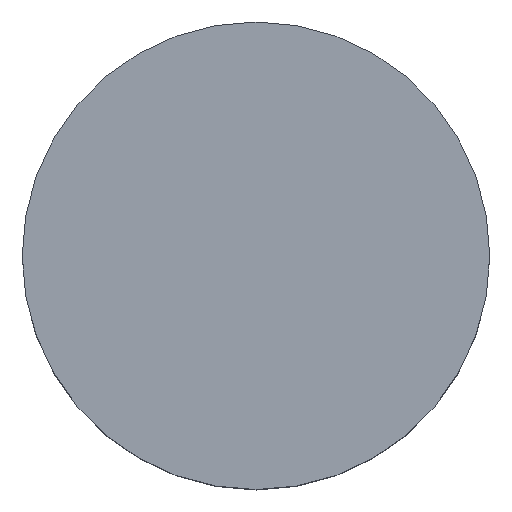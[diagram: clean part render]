
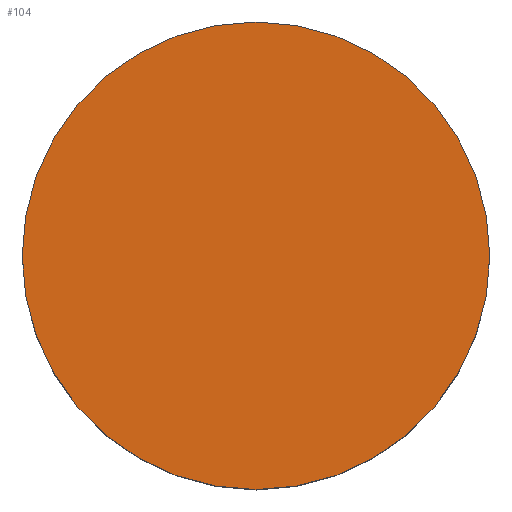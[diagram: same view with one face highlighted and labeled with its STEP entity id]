
A CAD part, top view. The second image highlights one B-rep face of the part: STEP entity #104.
In plain terms, the highlighted planar face has unit normal (0, 0, 1).
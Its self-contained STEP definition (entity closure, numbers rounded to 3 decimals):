
#21 = EDGE_CURVE('',#22,#22,#24,.T.);
#22 = VERTEX_POINT('',#23);
#23 = CARTESIAN_POINT('',(-73.,-42.,40.));
#24 = SURFACE_CURVE('',#25,(#30,#42),.PCURVE_S1.);
#25 = CIRCLE('',#26,2.);
#26 = AXIS2_PLACEMENT_3D('',#27,#28,#29);
#27 = CARTESIAN_POINT('',(-75.,-42.,40.));
#28 = DIRECTION('',(0.,0.,1.));
#29 = DIRECTION('',(1.,0.,0.));
#30 = PCURVE('',#31,#36);
#31 = CYLINDRICAL_SURFACE('',#32,2.);
#32 = AXIS2_PLACEMENT_3D('',#33,#34,#35);
#33 = CARTESIAN_POINT('',(-75.,-42.,38.));
#34 = DIRECTION('',(0.,0.,1.));
#35 = DIRECTION('',(1.,0.,0.));
#36 = DEFINITIONAL_REPRESENTATION('',(#37),#41);
#37 = LINE('',#38,#39);
#38 = CARTESIAN_POINT('',(0.,2.));
#39 = VECTOR('',#40,1.);
#40 = DIRECTION('',(1.,0.));
#41 = ( GEOMETRIC_REPRESENTATION_CONTEXT(2) 
PARAMETRIC_REPRESENTATION_CONTEXT() REPRESENTATION_CONTEXT('2D SPACE',''
  ) );
#42 = PCURVE('',#43,#48);
#43 = PLANE('',#44);
#44 = AXIS2_PLACEMENT_3D('',#45,#46,#47);
#45 = CARTESIAN_POINT('',(-75.,-42.,40.));
#46 = DIRECTION('',(0.,0.,1.));
#47 = DIRECTION('',(1.,0.,0.));
#48 = DEFINITIONAL_REPRESENTATION('',(#49),#53);
#49 = CIRCLE('',#50,2.);
#50 = AXIS2_PLACEMENT_2D('',#51,#52);
#51 = CARTESIAN_POINT('',(0.,0.));
#52 = DIRECTION('',(1.,0.));
#53 = ( GEOMETRIC_REPRESENTATION_CONTEXT(2) 
PARAMETRIC_REPRESENTATION_CONTEXT() REPRESENTATION_CONTEXT('2D SPACE',''
  ) );
#104 = ADVANCED_FACE('',(#105),#43,.T.);
#105 = FACE_BOUND('',#106,.T.);
#106 = EDGE_LOOP('',(#107));
#107 = ORIENTED_EDGE('',*,*,#21,.T.);
